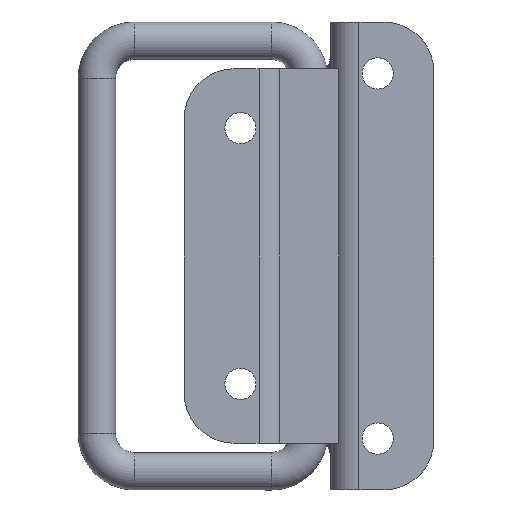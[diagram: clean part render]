
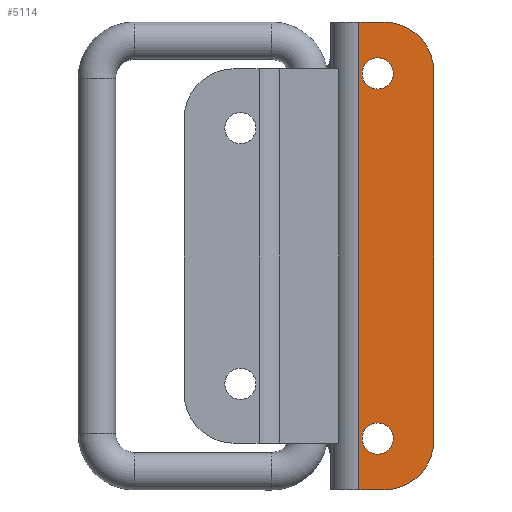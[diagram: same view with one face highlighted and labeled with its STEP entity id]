
A CAD part, front view. The second image highlights one B-rep face of the part: STEP entity #5114.
In plain terms, the highlighted planar face has unit normal (0, -1, 0).
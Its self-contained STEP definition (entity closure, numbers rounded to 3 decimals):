
#6 = ORIENTED_EDGE ( 'NONE', *, *, #6889, .T. ) ;
#7 = CARTESIAN_POINT ( 'NONE',  ( 16., -1.5, 66.75 ) ) ;
#24 = FACE_OUTER_BOUND ( 'NONE', #5880, .T. ) ;
#72 = EDGE_CURVE ( 'NONE', #4438, #4212, #6662, .T. ) ;
#93 = CIRCLE ( 'NONE', #6497, 2.5 ) ;
#106 = CIRCLE ( 'NONE', #5412, 2.5 ) ;
#270 = CARTESIAN_POINT ( 'NONE',  ( 17., -1.5, 75. ) ) ;
#385 = EDGE_LOOP ( 'NONE', ( #3415, #7287 ) ) ;
#392 = ORIENTED_EDGE ( 'NONE', *, *, #1726, .T. ) ;
#434 = DIRECTION ( 'NONE',  ( 0., 0., 1. ) ) ;
#439 = CARTESIAN_POINT ( 'NONE',  ( 13.5, -1.5, 8.25 ) ) ;
#476 = EDGE_CURVE ( 'NONE', #1570, #5005, #93, .T. ) ;
#527 = DIRECTION ( 'NONE',  ( 0., 0., 1. ) ) ;
#615 = CARTESIAN_POINT ( 'NONE',  ( 17., -1.5, 0. ) ) ;
#702 = ORIENTED_EDGE ( 'NONE', *, *, #72, .T. ) ;
#794 = AXIS2_PLACEMENT_3D ( 'NONE', #1805, #1728, #1760 ) ;
#899 = LINE ( 'NONE', #5414, #6933 ) ;
#966 = EDGE_CURVE ( 'NONE', #1745, #3154, #1755, .T. ) ;
#1040 = DIRECTION ( 'NONE',  ( 0., 1., 0. ) ) ;
#1346 = VERTEX_POINT ( 'NONE', #615 ) ;
#1486 = AXIS2_PLACEMENT_3D ( 'NONE', #7209, #5512, #434 ) ;
#1570 = VERTEX_POINT ( 'NONE', #6527 ) ;
#1639 = VECTOR ( 'NONE', #5088, 1000. ) ;
#1644 = CARTESIAN_POINT ( 'NONE',  ( 10., -1.5, 75. ) ) ;
#1726 = EDGE_CURVE ( 'NONE', #1346, #3154, #6136, .T. ) ;
#1728 = DIRECTION ( 'NONE',  ( 0., 1., 0. ) ) ;
#1745 = VERTEX_POINT ( 'NONE', #4393 ) ;
#1755 = LINE ( 'NONE', #2527, #3116 ) ;
#1760 = DIRECTION ( 'NONE',  ( 0., 0., 1. ) ) ;
#1765 = ORIENTED_EDGE ( 'NONE', *, *, #6153, .T. ) ;
#1805 = CARTESIAN_POINT ( 'NONE',  ( 16., -1.5, 8.25 ) ) ;
#1823 = CIRCLE ( 'NONE', #5316, 8. ) ;
#1953 = ORIENTED_EDGE ( 'NONE', *, *, #2253, .T. ) ;
#1985 = DIRECTION ( 'NONE',  ( 0., 0., -1. ) ) ;
#2005 = VERTEX_POINT ( 'NONE', #270 ) ;
#2033 = VERTEX_POINT ( 'NONE', #4222 ) ;
#2111 = CARTESIAN_POINT ( 'NONE',  ( 17., -1.5, 8. ) ) ;
#2195 = DIRECTION ( 'NONE',  ( 0., -1., 0. ) ) ;
#2253 = EDGE_CURVE ( 'NONE', #2033, #1346, #2585, .T. ) ;
#2527 = CARTESIAN_POINT ( 'NONE',  ( 25., -1.5, 75. ) ) ;
#2585 = LINE ( 'NONE', #2695, #6960 ) ;
#2695 = CARTESIAN_POINT ( 'NONE',  ( 10., -1.5, 0. ) ) ;
#2700 = DIRECTION ( 'NONE',  ( 0., 0., 1. ) ) ;
#2748 = ORIENTED_EDGE ( 'NONE', *, *, #966, .F. ) ;
#2749 = VERTEX_POINT ( 'NONE', #3474 ) ;
#2760 = DIRECTION ( 'NONE',  ( 0., 1., 0. ) ) ;
#2800 = DIRECTION ( 'NONE',  ( 0., 0., 1. ) ) ;
#3047 = CARTESIAN_POINT ( 'NONE',  ( 18.5, -1.5, 8.25 ) ) ;
#3116 = VECTOR ( 'NONE', #4847, 1000. ) ;
#3154 = VERTEX_POINT ( 'NONE', #5822 ) ;
#3415 = ORIENTED_EDGE ( 'NONE', *, *, #476, .T. ) ;
#3474 = CARTESIAN_POINT ( 'NONE',  ( 13., -1.5, 75. ) ) ;
#3918 = DIRECTION ( 'NONE',  ( 0., 1., 0. ) ) ;
#4212 = VERTEX_POINT ( 'NONE', #439 ) ;
#4222 = CARTESIAN_POINT ( 'NONE',  ( 13., -1.5, 0. ) ) ;
#4264 = AXIS2_PLACEMENT_3D ( 'NONE', #4430, #1040, #5021 ) ;
#4288 = EDGE_LOOP ( 'NONE', ( #1765, #702 ) ) ;
#4393 = CARTESIAN_POINT ( 'NONE',  ( 25., -1.5, 67. ) ) ;
#4430 = CARTESIAN_POINT ( 'NONE',  ( 16., -1.5, 8.25 ) ) ;
#4438 = VERTEX_POINT ( 'NONE', #3047 ) ;
#4847 = DIRECTION ( 'NONE',  ( 0., 0., -1. ) ) ;
#5005 = VERTEX_POINT ( 'NONE', #7069 ) ;
#5021 = DIRECTION ( 'NONE',  ( 0., 0., 1. ) ) ;
#5088 = DIRECTION ( 'NONE',  ( 1., 0., 0. ) ) ;
#5114 = ADVANCED_FACE ( 'NONE', ( #6061, #5888, #24 ), #6660, .F. ) ;
#5309 = AXIS2_PLACEMENT_3D ( 'NONE', #2111, #6114, #2700 ) ;
#5316 = AXIS2_PLACEMENT_3D ( 'NONE', #5628, #2195, #6196 ) ;
#5412 = AXIS2_PLACEMENT_3D ( 'NONE', #7330, #3918, #527 ) ;
#5414 = CARTESIAN_POINT ( 'NONE',  ( 13., -1.5, 75. ) ) ;
#5512 = DIRECTION ( 'NONE',  ( 0., 1., 0. ) ) ;
#5628 = CARTESIAN_POINT ( 'NONE',  ( 17., -1.5, 67. ) ) ;
#5711 = ORIENTED_EDGE ( 'NONE', *, *, #6363, .T. ) ;
#5822 = CARTESIAN_POINT ( 'NONE',  ( 25., -1.5, 8. ) ) ;
#5880 = EDGE_LOOP ( 'NONE', ( #2748, #6, #6382, #5711, #1953, #392 ) ) ;
#5888 = FACE_BOUND ( 'NONE', #4288, .T. ) ;
#6061 = FACE_BOUND ( 'NONE', #385, .T. ) ;
#6114 = DIRECTION ( 'NONE',  ( 0., -1., 0. ) ) ;
#6128 = CIRCLE ( 'NONE', #4264, 2.5 ) ;
#6136 = CIRCLE ( 'NONE', #5309, 8. ) ;
#6153 = EDGE_CURVE ( 'NONE', #4212, #4438, #6128, .T. ) ;
#6190 = EDGE_CURVE ( 'NONE', #5005, #1570, #106, .T. ) ;
#6196 = DIRECTION ( 'NONE',  ( 0., 0., 1. ) ) ;
#6204 = LINE ( 'NONE', #1644, #1639 ) ;
#6363 = EDGE_CURVE ( 'NONE', #2749, #2033, #899, .T. ) ;
#6382 = ORIENTED_EDGE ( 'NONE', *, *, #6936, .F. ) ;
#6497 = AXIS2_PLACEMENT_3D ( 'NONE', #7, #2760, #2800 ) ;
#6527 = CARTESIAN_POINT ( 'NONE',  ( 13.5, -1.5, 66.75 ) ) ;
#6660 = PLANE ( 'NONE',  #1486 ) ;
#6662 = CIRCLE ( 'NONE', #794, 2.5 ) ;
#6687 = DIRECTION ( 'NONE',  ( 1., 0., 0. ) ) ;
#6889 = EDGE_CURVE ( 'NONE', #1745, #2005, #1823, .T. ) ;
#6933 = VECTOR ( 'NONE', #1985, 1000. ) ;
#6936 = EDGE_CURVE ( 'NONE', #2749, #2005, #6204, .T. ) ;
#6960 = VECTOR ( 'NONE', #6687, 1000. ) ;
#7069 = CARTESIAN_POINT ( 'NONE',  ( 18.5, -1.5, 66.75 ) ) ;
#7209 = CARTESIAN_POINT ( 'NONE',  ( 10., -1.5, 75. ) ) ;
#7287 = ORIENTED_EDGE ( 'NONE', *, *, #6190, .T. ) ;
#7330 = CARTESIAN_POINT ( 'NONE',  ( 16., -1.5, 66.75 ) ) ;
